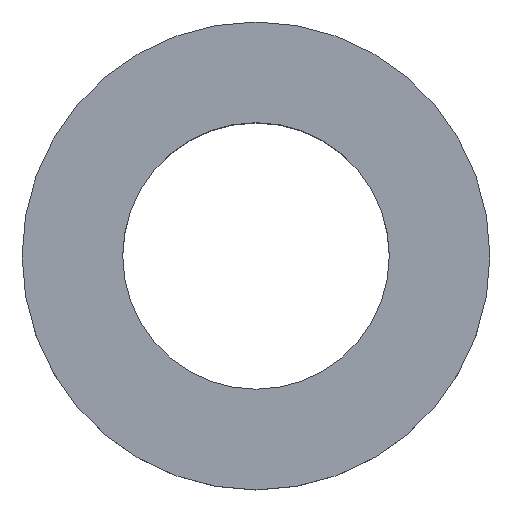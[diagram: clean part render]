
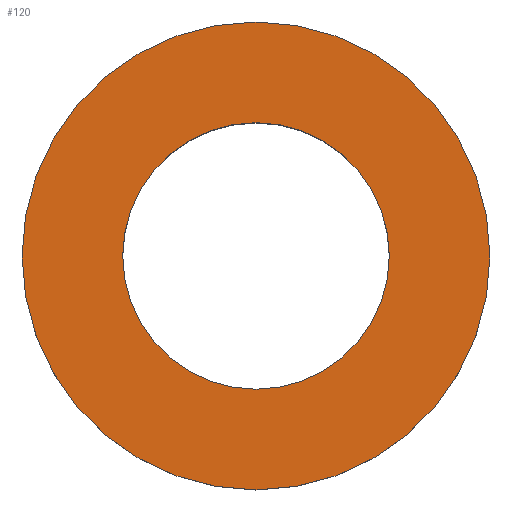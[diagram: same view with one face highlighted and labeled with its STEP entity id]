
A CAD part, top view. The second image highlights one B-rep face of the part: STEP entity #120.
In plain terms, the highlighted planar face has unit normal (0, 0, 1).
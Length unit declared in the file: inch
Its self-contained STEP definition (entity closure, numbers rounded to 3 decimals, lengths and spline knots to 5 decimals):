
#2 = EDGE_LOOP ( 'NONE', ( #156 ) ) ;
#3 = AXIS2_PLACEMENT_3D ( 'NONE', #99, #65, #172 ) ;
#6 = EDGE_CURVE ( 'NONE', #225, #225, #104, .T. ) ;
#10 = PLANE ( 'NONE',  #70 ) ;
#13 = DIRECTION ( 'NONE',  ( -1., 0., 0. ) ) ;
#18 = FACE_OUTER_BOUND ( 'NONE', #27, .T. ) ;
#27 = EDGE_LOOP ( 'NONE', ( #81 ) ) ;
#54 = AXIS2_PLACEMENT_3D ( 'NONE', #155, #58, #57 ) ;
#57 = DIRECTION ( 'NONE',  ( 1., 0., 0. ) ) ;
#58 = DIRECTION ( 'NONE',  ( 0., 0., 1. ) ) ;
#65 = DIRECTION ( 'NONE',  ( 0., 0., 1. ) ) ;
#70 = AXIS2_PLACEMENT_3D ( 'NONE', #181, #151, #13 ) ;
#81 = ORIENTED_EDGE ( 'NONE', *, *, #6, .T. ) ;
#83 = CARTESIAN_POINT ( 'NONE',  ( 1.77165, 0., 0. ) ) ;
#99 = CARTESIAN_POINT ( 'NONE',  ( 0., 0., 0. ) ) ;
#100 = CARTESIAN_POINT ( 'NONE',  ( 3.11024, 0., 0. ) ) ;
#104 = CIRCLE ( 'NONE', #3, 3.11024 ) ;
#112 = EDGE_CURVE ( 'NONE', #229, #229, #144, .T. ) ;
#120 = ADVANCED_FACE ( 'NONE', ( #138, #18 ), #10, .F. ) ;
#138 = FACE_BOUND ( 'NONE', #2, .T. ) ;
#144 = CIRCLE ( 'NONE', #54, 1.77165 ) ;
#151 = DIRECTION ( 'NONE',  ( 0., 0., -1. ) ) ;
#155 = CARTESIAN_POINT ( 'NONE',  ( 0., 0., 0. ) ) ;
#156 = ORIENTED_EDGE ( 'NONE', *, *, #112, .F. ) ;
#172 = DIRECTION ( 'NONE',  ( 1., 0., 0. ) ) ;
#181 = CARTESIAN_POINT ( 'NONE',  ( 0., 1.77165, 0. ) ) ;
#225 = VERTEX_POINT ( 'NONE', #100 ) ;
#229 = VERTEX_POINT ( 'NONE', #83 ) ;
